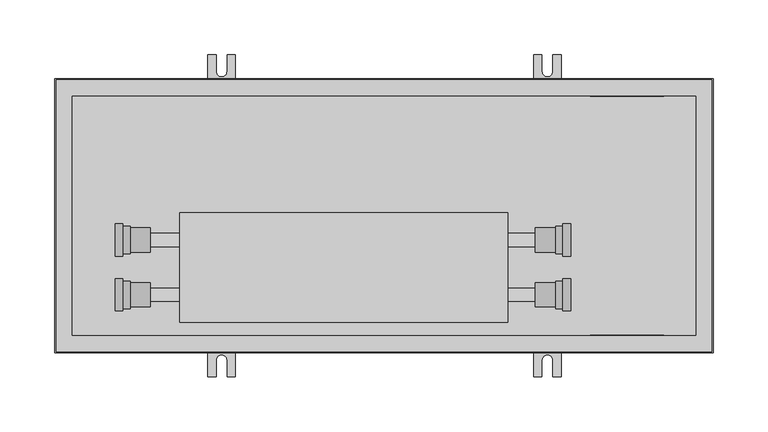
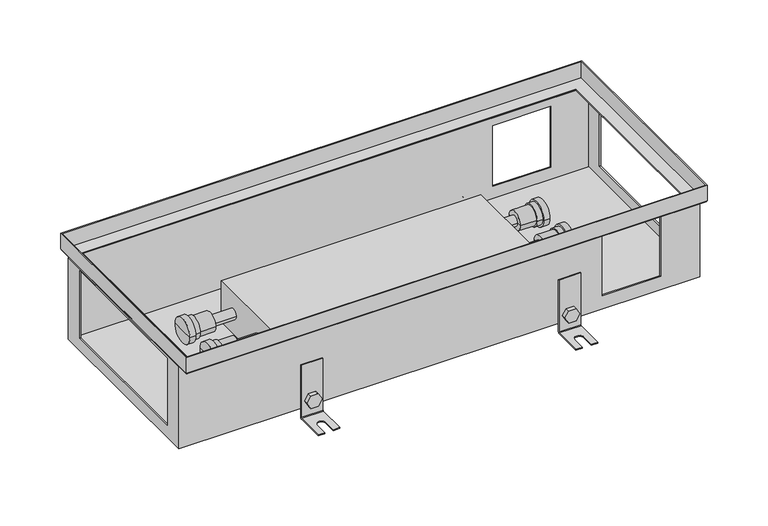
"""IFC4 building model written with IfcOpenShell, lengths in millimetres: proxy geometry, TECHNO_Конвектор встраиваемый_Usual_KVP-250_85-105-120 : KVP 250-120."""

from ifc_helpers import new_model, si_unit, point, frame, frame_2d, origin, place, context, project, spatial, polyline, circle_curve, ellipse_curve, trimmed, segment, composite_curve, outline, extrude, faceted_brep, source, transform, mapped, element, save
from ifc_brep_helpers import plane_surface, cylinder_surface, revolved_surface, advanced_brep


def mechanical_equipment_2afb26c2(model_context):
    return source(origin(), model_context, "Body", "SolidModel", [
        extrude(outline(composite_curve([segment(trimmed(circle_curve(frame_2d((-110.5, 449.0)), 7.5), [point((-110.5, 441.5))], [point((-110.5, 456.5))], False, "CARTESIAN"), True, "CONTINUOUS"), segment(trimmed(circle_curve(frame_2d((-110.5, 449.0)), 7.5), [point((-110.5, 456.5))], [point((-110.5, 441.5))], False, "CARTESIAN"), True, "CONTINUOUS")], self_intersect=False)), frame((0.0, 110.2, 0.0), z_axis=(0.0, 1.0, 0.0), x_axis=(0.0, 0.0, 1.0)), (0.0, 0.0, 1.0), 1.5),
        extrude(outline(polyline([(-110.5, 440.339746), (-118.0, 444.669873), (-118.0, 453.330127), (-110.5, 457.660254), (-103.0, 453.330127), (-103.0, 444.669873), (-110.5, 440.339746)])), frame((0.0, 112.9, 0.0), z_axis=(0.0, 1.0, 0.0), x_axis=(0.0, 0.0, 1.0)), (0.0, 0.0, 1.0), 5.1),
        advanced_brep(
        [(461.5, 112.9, -65.5), (461.5, 111.7, -65.5), (461.5, 111.7, -128.5), (461.5, 113.7, -130.5), (461.5, 146.7, -130.5), (461.5, 146.7, -129.3), (461.5, 113.7, -129.3), (461.5, 112.9, -128.5), (436.5, 112.9, -65.5), (436.5, 112.9, -128.5), (436.5, 113.7, -129.3), (436.5, 146.7, -129.3), (436.5, 146.7, -130.5), (436.5, 113.7, -130.5), (436.5, 111.7, -128.5), (436.5, 111.7, -65.5), (454.0, 146.7, -129.3), (454.0, 131.7, -129.3), (444.0, 131.7, -129.3), (444.0, 146.7, -129.3), (444.0, 146.7, -130.5), (454.0, 146.7, -130.5), (444.0, 131.7, -130.5), (454.0, 131.7, -130.5)],
        [
            (0, 1),
            (1, 2),
            (2, 3, circle_curve(frame((461.5, 113.7, -128.5), z_axis=(1.0, 0.0, 0.0), x_axis=(0.0, 1.0, 0.0)), 2.0)),
            (3, 4),
            (4, 5),
            (5, 6),
            (6, 7, circle_curve(frame((461.5, 113.7, -128.5), z_axis=(-1.0, 0.0, 0.0), x_axis=(0.0, 1.0, 0.0)), 0.8)),
            (7, 0),
            (8, 9),
            (9, 10, circle_curve(frame((436.5, 113.7, -128.5), z_axis=(1.0, 0.0, 0.0), x_axis=(0.0, 1.0, 0.0)), 0.8)),
            (10, 11),
            (11, 12),
            (12, 13),
            (13, 14, circle_curve(frame((436.5, 113.7, -128.5), z_axis=(-1.0, 0.0, 0.0), x_axis=(0.0, 1.0, 0.0)), 2.0)),
            (14, 15),
            (15, 8),
            (7, 9),
            (8, 0),
            (6, 10),
            (5, 16),
            (16, 17),
            (17, 18, circle_curve(frame((449.0, 131.7, -129.3), z_axis=(0.0, 0.0, -1.0), x_axis=(1.0, 0.0, 0.0)), 5.0)),
            (18, 19),
            (19, 11),
            (19, 20),
            (20, 12),
            (4, 21),
            (21, 16),
            (3, 13),
            (20, 22),
            (22, 23, circle_curve(frame((449.0, 131.7, -130.5), z_axis=(0.0, 0.0, 1.0), x_axis=(1.0, 0.0, 0.0)), 5.0)),
            (23, 21),
            (2, 14),
            (1, 15),
            (18, 22),
            (23, 17),
        ],
        [
            plane_surface(frame((461.5, 112.9, -65.5), z_axis=(1.0, 0.0, 0.0), x_axis=(0.0, 0.0, -1.0))),
            plane_surface(frame((436.5, 112.9, -65.5), z_axis=(-1.0, 0.0, 0.0), x_axis=(0.0, 0.0, 1.0))),
            plane_surface(frame((461.5, 112.9, -65.5), z_axis=(0.0, 1.0, 0.0), x_axis=(-1.0, 0.0, 0.0))),
            revolved_surface(polyline([(436.5, 114.5, -128.5), (461.5, 114.5, -128.5)]), (436.5, 113.7, -128.5), (-1.0, 0.0, 0.0)),
            plane_surface(frame((461.5, 113.7, -129.3), z_axis=(0.0, 0.0, 1.0), x_axis=(-1.0, 0.0, 0.0))),
            plane_surface(frame((461.5, 146.7, -129.3), z_axis=(0.0, 1.0, 0.0), x_axis=(-1.0, 0.0, 0.0))),
            plane_surface(frame((461.5, 146.7, -130.5), z_axis=(0.0, 0.0, -1.0), x_axis=(-1.0, 0.0, 0.0))),
            cylinder_surface(frame((436.5, 113.7, -128.5), z_axis=(1.0, 0.0, 0.0), x_axis=(0.0, 1.0, 0.0)), 2.0),
            plane_surface(frame((461.5, 111.7, -128.5), z_axis=(0.0, -1.0, 0.0), x_axis=(-1.0, 0.0, 0.0))),
            plane_surface(frame((461.5, 111.7, -65.5), z_axis=(0.0, 0.0, 1.0), x_axis=(-1.0, 0.0, 0.0))),
            plane_surface(frame((444.0, 131.7, -129.3), z_axis=(1.0, 0.0, 0.0), x_axis=(0.0, 0.0, -1.0))),
            plane_surface(frame((454.0, 146.7, -129.3), z_axis=(-1.0, 0.0, 0.0), x_axis=(0.0, 0.0, -1.0))),
            revolved_surface(polyline([(454.0, 131.7, -129.3), (454.0, 131.7, -130.5)]), (449.0, 131.7, -130.5), (0.0, 0.0, 1.0)),
        ],
        [
            (0, [[1, 2, 3, 4, 5, 6, 7, 8]]),
            (1, [[9, 10, 11, 12, 13, 14, 15, 16]]),
            (2, [[17, -9, 18, -8]]),
            (3, [[19, -10, -17, -7]]),
            (4, [[20, 21, 22, 23, 24, -11, -19, -6]]),
            (5, [[-24, 25, 26, -12]]),
            (5, [[27, 28, -20, -5]]),
            (6, [[29, -13, -26, 30, 31, 32, -27, -4]]),
            (7, [[33, -14, -29, -3]]),
            (8, [[34, -15, -33, -2]]),
            (9, [[-18, -16, -34, -1]]),
            (10, [[-30, -25, -23, 35]]),
            (11, [[-21, -28, -32, 36]]),
            (12, [[-22, -36, -31, -35]]),
        ],
    ),
        extrude(outline(composite_curve([segment(trimmed(circle_curve(frame_2d((-110.5, 449.0)), 7.5), [point((-110.5, 441.5))], [point((-110.5, 456.5))], False, "CARTESIAN"), True, "CONTINUOUS"), segment(trimmed(circle_curve(frame_2d((-110.5, 449.0)), 7.5), [point((-110.5, 456.5))], [point((-110.5, 441.5))], False, "CARTESIAN"), True, "CONTINUOUS")], self_intersect=False)), frame((0.0, -111.7, 0.0), z_axis=(0.0, 1.0, 0.0), x_axis=(0.0, 0.0, 1.0)), (0.0, 0.0, 1.0), 1.5),
        extrude(outline(polyline([(-110.5, 440.339746), (-118.0, 444.669873), (-118.0, 453.330127), (-110.5, 457.660254), (-103.0, 453.330127), (-103.0, 444.669873), (-110.5, 440.339746)])), frame((0.0, -118.0, 0.0), z_axis=(0.0, 1.0, 0.0), x_axis=(0.0, 0.0, 1.0)), (0.0, 0.0, 1.0), 5.1),
        advanced_brep(
        [(461.5, -112.9, -65.5), (461.5, -112.9, -128.5), (461.5, -113.7, -129.3), (461.5, -146.7, -129.3), (461.5, -146.7, -130.5), (461.5, -113.7, -130.5), (461.5, -111.7, -128.5), (461.5, -111.7, -65.5), (436.5, -112.9, -65.5), (436.5, -111.7, -65.5), (436.5, -111.7, -128.5), (436.5, -113.7, -130.5), (436.5, -146.7, -130.5), (436.5, -146.7, -129.3), (436.5, -113.7, -129.3), (436.5, -112.9, -128.5), (444.0, -146.7, -129.3), (444.0, -131.7, -129.3), (454.0, -131.7, -129.3), (454.0, -146.7, -129.3), (454.0, -146.7, -130.5), (444.0, -146.7, -130.5), (454.0, -131.7, -130.5), (444.0, -131.7, -130.5)],
        [
            (0, 1),
            (1, 2, circle_curve(frame((461.5, -113.7, -128.5), z_axis=(-1.0, 0.0, 0.0), x_axis=(0.0, -1.0, 0.0)), 0.8)),
            (2, 3),
            (3, 4),
            (4, 5),
            (5, 6, circle_curve(frame((461.5, -113.7, -128.5), z_axis=(1.0, 0.0, 0.0), x_axis=(0.0, -1.0, 0.0)), 2.0)),
            (6, 7),
            (7, 0),
            (8, 9),
            (9, 10),
            (10, 11, circle_curve(frame((436.5, -113.7, -128.5), z_axis=(-1.0, 0.0, 0.0), x_axis=(0.0, -1.0, 0.0)), 2.0)),
            (11, 12),
            (12, 13),
            (13, 14),
            (14, 15, circle_curve(frame((436.5, -113.7, -128.5), z_axis=(1.0, 0.0, 0.0), x_axis=(0.0, -1.0, 0.0)), 0.8)),
            (15, 8),
            (0, 8),
            (15, 1),
            (14, 2),
            (13, 16),
            (16, 17),
            (17, 18, circle_curve(frame((449.0, -131.7, -129.3), z_axis=(0.0, 0.0, -1.0), x_axis=(1.0, 0.0, 0.0)), 5.0)),
            (18, 19),
            (19, 3),
            (19, 20),
            (20, 4),
            (12, 21),
            (21, 16),
            (20, 22),
            (22, 23, circle_curve(frame((449.0, -131.7, -130.5), z_axis=(0.0, 0.0, 1.0), x_axis=(1.0, 0.0, 0.0)), 5.0)),
            (23, 21),
            (11, 5),
            (10, 6),
            (9, 7),
            (23, 17),
            (18, 22),
        ],
        [
            plane_surface(frame((461.5, -112.9, -65.5), z_axis=(1.0, 0.0, 0.0), x_axis=(0.0, 0.0, -1.0))),
            plane_surface(frame((436.5, -112.9, -65.5), z_axis=(-1.0, 0.0, 0.0), x_axis=(0.0, 0.0, 1.0))),
            plane_surface(frame((461.5, -112.9, -65.5), z_axis=(0.0, -1.0, 0.0), x_axis=(-1.0, 0.0, 0.0))),
            revolved_surface(polyline([(436.5, -114.5, -128.5), (461.5, -114.5, -128.5)]), (436.5, -113.7, -128.5), (-1.0, 0.0, 0.0)),
            plane_surface(frame((461.5, -113.7, -129.3), z_axis=(0.0, 0.0, 1.0), x_axis=(-1.0, 0.0, 0.0))),
            plane_surface(frame((461.5, -146.7, -129.3), z_axis=(0.0, -1.0, 0.0), x_axis=(-1.0, 0.0, 0.0))),
            plane_surface(frame((461.5, -146.7, -130.5), z_axis=(0.0, 0.0, -1.0), x_axis=(-1.0, 0.0, 0.0))),
            cylinder_surface(frame((436.5, -113.7, -128.5), z_axis=(1.0, 0.0, 0.0), x_axis=(0.0, -1.0, 0.0)), 2.0),
            plane_surface(frame((461.5, -111.7, -128.5), z_axis=(0.0, 1.0, 0.0), x_axis=(-1.0, 0.0, 0.0))),
            plane_surface(frame((461.5, -111.7, -65.5), z_axis=(0.0, 0.0, 1.0), x_axis=(-1.0, 0.0, 0.0))),
            plane_surface(frame((444.0, -131.7, -129.3), z_axis=(1.0, 0.0, 0.0), x_axis=(0.0, 0.0, -1.0))),
            plane_surface(frame((454.0, -146.7, -129.3), z_axis=(-1.0, 0.0, 0.0), x_axis=(0.0, 0.0, -1.0))),
            revolved_surface(polyline([(454.0, -131.7, -129.3), (454.0, -131.7, -130.5)]), (449.0, -131.7, -130.5), (0.0, 0.0, 1.0)),
        ],
        [
            (0, [[1, 2, 3, 4, 5, 6, 7, 8]]),
            (1, [[9, 10, 11, 12, 13, 14, 15, 16]]),
            (2, [[-1, 17, -16, 18]]),
            (3, [[-2, -18, -15, 19]]),
            (4, [[-3, -19, -14, 20, 21, 22, 23, 24]]),
            (5, [[-4, -24, 25, 26]]),
            (5, [[-13, 27, 28, -20]]),
            (6, [[-5, -26, 29, 30, 31, -27, -12, 32]]),
            (7, [[-6, -32, -11, 33]]),
            (8, [[-7, -33, -10, 34]]),
            (9, [[-8, -34, -9, -17]]),
            (10, [[35, -21, -28, -31]]),
            (11, [[36, -29, -25, -23]]),
            (12, [[-35, -30, -36, -22]]),
        ],
    ),
        extrude(outline(composite_curve([segment(trimmed(circle_curve(frame_2d((-110.5, 152.0)), 7.5), [point((-110.5, 144.5))], [point((-110.5, 159.5))], False, "CARTESIAN"), True, "CONTINUOUS"), segment(trimmed(circle_curve(frame_2d((-110.5, 152.0)), 7.5), [point((-110.5, 159.5))], [point((-110.5, 144.5))], False, "CARTESIAN"), True, "CONTINUOUS")], self_intersect=False)), frame((0.0, 110.2, 0.0), z_axis=(0.0, 1.0, 0.0), x_axis=(0.0, 0.0, 1.0)), (0.0, 0.0, 1.0), 1.5),
        extrude(outline(polyline([(-110.5, 143.339746), (-118.0, 147.669873), (-118.0, 156.330127), (-110.5, 160.660254), (-103.0, 156.330127), (-103.0, 147.669873), (-110.5, 143.339746)])), frame((0.0, 112.9, 0.0), z_axis=(0.0, 1.0, 0.0), x_axis=(0.0, 0.0, 1.0)), (0.0, 0.0, 1.0), 5.1),
        advanced_brep(
        [(164.5, 112.9, -65.5), (164.5, 111.7, -65.5), (164.5, 111.7, -128.5), (164.5, 113.7, -130.5), (164.5, 146.7, -130.5), (164.5, 146.7, -129.3), (164.5, 113.7, -129.3), (164.5, 112.9, -128.5), (139.5, 112.9, -65.5), (139.5, 112.9, -128.5), (139.5, 113.7, -129.3), (139.5, 146.7, -129.3), (139.5, 146.7, -130.5), (139.5, 113.7, -130.5), (139.5, 111.7, -128.5), (139.5, 111.7, -65.5), (157.0, 146.7, -129.3), (157.0, 131.7, -129.3), (147.0, 131.7, -129.3), (147.0, 146.7, -129.3), (147.0, 146.7, -130.5), (157.0, 146.7, -130.5), (147.0, 131.7, -130.5), (157.0, 131.7, -130.5)],
        [
            (0, 1),
            (1, 2),
            (2, 3, circle_curve(frame((164.5, 113.7, -128.5), z_axis=(1.0, 0.0, 0.0), x_axis=(0.0, 1.0, 0.0)), 2.0)),
            (3, 4),
            (4, 5),
            (5, 6),
            (6, 7, circle_curve(frame((164.5, 113.7, -128.5), z_axis=(-1.0, 0.0, 0.0), x_axis=(0.0, 1.0, 0.0)), 0.8)),
            (7, 0),
            (8, 9),
            (9, 10, circle_curve(frame((139.5, 113.7, -128.5), z_axis=(1.0, 0.0, 0.0), x_axis=(0.0, 1.0, 0.0)), 0.8)),
            (10, 11),
            (11, 12),
            (12, 13),
            (13, 14, circle_curve(frame((139.5, 113.7, -128.5), z_axis=(-1.0, 0.0, 0.0), x_axis=(0.0, 1.0, 0.0)), 2.0)),
            (14, 15),
            (15, 8),
            (7, 9),
            (8, 0),
            (6, 10),
            (5, 16),
            (16, 17),
            (17, 18, circle_curve(frame((152.0, 131.7, -129.3), z_axis=(0.0, 0.0, -1.0), x_axis=(1.0, 0.0, 0.0)), 5.0)),
            (18, 19),
            (19, 11),
            (19, 20),
            (20, 12),
            (4, 21),
            (21, 16),
            (3, 13),
            (20, 22),
            (22, 23, circle_curve(frame((152.0, 131.7, -130.5), z_axis=(0.0, 0.0, 1.0), x_axis=(1.0, 0.0, 0.0)), 5.0)),
            (23, 21),
            (2, 14),
            (1, 15),
            (18, 22),
            (23, 17),
        ],
        [
            plane_surface(frame((164.5, 112.9, -65.5), z_axis=(1.0, 0.0, 0.0), x_axis=(0.0, 0.0, -1.0))),
            plane_surface(frame((139.5, 112.9, -65.5), z_axis=(-1.0, 0.0, 0.0), x_axis=(0.0, 0.0, 1.0))),
            plane_surface(frame((164.5, 112.9, -65.5), z_axis=(0.0, 1.0, 0.0), x_axis=(-1.0, 0.0, 0.0))),
            revolved_surface(polyline([(139.5, 114.5, -128.5), (164.5, 114.5, -128.5)]), (139.5, 113.7, -128.5), (-1.0, 0.0, 0.0)),
            plane_surface(frame((164.5, 113.7, -129.3), z_axis=(0.0, 0.0, 1.0), x_axis=(-1.0, 0.0, 0.0))),
            plane_surface(frame((164.5, 146.7, -129.3), z_axis=(0.0, 1.0, 0.0), x_axis=(-1.0, 0.0, 0.0))),
            plane_surface(frame((164.5, 146.7, -130.5), z_axis=(0.0, 0.0, -1.0), x_axis=(-1.0, 0.0, 0.0))),
            cylinder_surface(frame((139.5, 113.7, -128.5), z_axis=(1.0, 0.0, 0.0), x_axis=(0.0, 1.0, 0.0)), 2.0),
            plane_surface(frame((164.5, 111.7, -128.5), z_axis=(0.0, -1.0, 0.0), x_axis=(-1.0, 0.0, 0.0))),
            plane_surface(frame((164.5, 111.7, -65.5), z_axis=(0.0, 0.0, 1.0), x_axis=(-1.0, 0.0, 0.0))),
            plane_surface(frame((147.0, 131.7, -129.3), z_axis=(1.0, 0.0, 0.0), x_axis=(0.0, 0.0, -1.0))),
            plane_surface(frame((157.0, 146.7, -129.3), z_axis=(-1.0, 0.0, 0.0), x_axis=(0.0, 0.0, -1.0))),
            revolved_surface(polyline([(157.0, 131.7, -129.3), (157.0, 131.7, -130.5)]), (152.0, 131.7, -130.5), (0.0, 0.0, 1.0)),
        ],
        [
            (0, [[1, 2, 3, 4, 5, 6, 7, 8]]),
            (1, [[9, 10, 11, 12, 13, 14, 15, 16]]),
            (2, [[17, -9, 18, -8]]),
            (3, [[19, -10, -17, -7]]),
            (4, [[20, 21, 22, 23, 24, -11, -19, -6]]),
            (5, [[-24, 25, 26, -12]]),
            (5, [[27, 28, -20, -5]]),
            (6, [[29, -13, -26, 30, 31, 32, -27, -4]]),
            (7, [[33, -14, -29, -3]]),
            (8, [[34, -15, -33, -2]]),
            (9, [[-18, -16, -34, -1]]),
            (10, [[-30, -25, -23, 35]]),
            (11, [[-21, -28, -32, 36]]),
            (12, [[-22, -36, -31, -35]]),
        ],
    ),
        extrude(outline(composite_curve([segment(trimmed(circle_curve(frame_2d((-110.5, 152.0)), 7.5), [point((-110.5, 144.5))], [point((-110.5, 159.5))], False, "CARTESIAN"), True, "CONTINUOUS"), segment(trimmed(circle_curve(frame_2d((-110.5, 152.0)), 7.5), [point((-110.5, 159.5))], [point((-110.5, 144.5))], False, "CARTESIAN"), True, "CONTINUOUS")], self_intersect=False)), frame((0.0, -111.7, 0.0), z_axis=(0.0, 1.0, 0.0), x_axis=(0.0, 0.0, 1.0)), (0.0, 0.0, 1.0), 1.5),
        extrude(outline(polyline([(-110.5, 143.339746), (-118.0, 147.669873), (-118.0, 156.330127), (-110.5, 160.660254), (-103.0, 156.330127), (-103.0, 147.669873), (-110.5, 143.339746)])), frame((0.0, -118.0, 0.0), z_axis=(0.0, 1.0, 0.0), x_axis=(0.0, 0.0, 1.0)), (0.0, 0.0, 1.0), 5.1),
        advanced_brep(
        [(164.5, -112.9, -65.5), (164.5, -112.9, -128.5), (164.5, -113.7, -129.3), (164.5, -146.7, -129.3), (164.5, -146.7, -130.5), (164.5, -113.7, -130.5), (164.5, -111.7, -128.5), (164.5, -111.7, -65.5), (139.5, -112.9, -65.5), (139.5, -111.7, -65.5), (139.5, -111.7, -128.5), (139.5, -113.7, -130.5), (139.5, -146.7, -130.5), (139.5, -146.7, -129.3), (139.5, -113.7, -129.3), (139.5, -112.9, -128.5), (147.0, -146.7, -129.3), (147.0, -131.7, -129.3), (157.0, -131.7, -129.3), (157.0, -146.7, -129.3), (157.0, -146.7, -130.5), (147.0, -146.7, -130.5), (157.0, -131.7, -130.5), (147.0, -131.7, -130.5)],
        [
            (0, 1),
            (1, 2, circle_curve(frame((164.5, -113.7, -128.5), z_axis=(-1.0, 0.0, 0.0), x_axis=(0.0, -1.0, 0.0)), 0.8)),
            (2, 3),
            (3, 4),
            (4, 5),
            (5, 6, circle_curve(frame((164.5, -113.7, -128.5), z_axis=(1.0, 0.0, 0.0), x_axis=(0.0, -1.0, 0.0)), 2.0)),
            (6, 7),
            (7, 0),
            (8, 9),
            (9, 10),
            (10, 11, circle_curve(frame((139.5, -113.7, -128.5), z_axis=(-1.0, 0.0, 0.0), x_axis=(0.0, -1.0, 0.0)), 2.0)),
            (11, 12),
            (12, 13),
            (13, 14),
            (14, 15, circle_curve(frame((139.5, -113.7, -128.5), z_axis=(1.0, 0.0, 0.0), x_axis=(0.0, -1.0, 0.0)), 0.8)),
            (15, 8),
            (0, 8),
            (15, 1),
            (14, 2),
            (13, 16),
            (16, 17),
            (17, 18, circle_curve(frame((152.0, -131.7, -129.3), z_axis=(0.0, 0.0, -1.0), x_axis=(1.0, 0.0, 0.0)), 5.0)),
            (18, 19),
            (19, 3),
            (19, 20),
            (20, 4),
            (12, 21),
            (21, 16),
            (20, 22),
            (22, 23, circle_curve(frame((152.0, -131.7, -130.5), z_axis=(0.0, 0.0, 1.0), x_axis=(1.0, 0.0, 0.0)), 5.0)),
            (23, 21),
            (11, 5),
            (10, 6),
            (9, 7),
            (23, 17),
            (18, 22),
        ],
        [
            plane_surface(frame((164.5, -112.9, -65.5), z_axis=(1.0, 0.0, 0.0), x_axis=(0.0, 0.0, -1.0))),
            plane_surface(frame((139.5, -112.9, -65.5), z_axis=(-1.0, 0.0, 0.0), x_axis=(0.0, 0.0, 1.0))),
            plane_surface(frame((164.5, -112.9, -65.5), z_axis=(0.0, -1.0, 0.0), x_axis=(-1.0, 0.0, 0.0))),
            revolved_surface(polyline([(139.5, -114.5, -128.5), (164.5, -114.5, -128.5)]), (139.5, -113.7, -128.5), (-1.0, 0.0, 0.0)),
            plane_surface(frame((164.5, -113.7, -129.3), z_axis=(0.0, 0.0, 1.0), x_axis=(-1.0, 0.0, 0.0))),
            plane_surface(frame((164.5, -146.7, -129.3), z_axis=(0.0, -1.0, 0.0), x_axis=(-1.0, 0.0, 0.0))),
            plane_surface(frame((164.5, -146.7, -130.5), z_axis=(0.0, 0.0, -1.0), x_axis=(-1.0, 0.0, 0.0))),
            cylinder_surface(frame((139.5, -113.7, -128.5), z_axis=(1.0, 0.0, 0.0), x_axis=(0.0, -1.0, 0.0)), 2.0),
            plane_surface(frame((164.5, -111.7, -128.5), z_axis=(0.0, 1.0, 0.0), x_axis=(-1.0, 0.0, 0.0))),
            plane_surface(frame((164.5, -111.7, -65.5), z_axis=(0.0, 0.0, 1.0), x_axis=(-1.0, 0.0, 0.0))),
            plane_surface(frame((147.0, -131.7, -129.3), z_axis=(1.0, 0.0, 0.0), x_axis=(0.0, 0.0, -1.0))),
            plane_surface(frame((157.0, -146.7, -129.3), z_axis=(-1.0, 0.0, 0.0), x_axis=(0.0, 0.0, -1.0))),
            revolved_surface(polyline([(157.0, -131.7, -129.3), (157.0, -131.7, -130.5)]), (152.0, -131.7, -130.5), (0.0, 0.0, 1.0)),
        ],
        [
            (0, [[1, 2, 3, 4, 5, 6, 7, 8]]),
            (1, [[9, 10, 11, 12, 13, 14, 15, 16]]),
            (2, [[-1, 17, -16, 18]]),
            (3, [[-2, -18, -15, 19]]),
            (4, [[-3, -19, -14, 20, 21, 22, 23, 24]]),
            (5, [[-4, -24, 25, 26]]),
            (5, [[-13, 27, 28, -20]]),
            (6, [[-5, -26, 29, 30, 31, -27, -12, 32]]),
            (7, [[-6, -32, -11, 33]]),
            (8, [[-7, -33, -10, 34]]),
            (9, [[-8, -34, -9, -17]]),
            (10, [[35, -21, -28, -31]]),
            (11, [[36, -29, -25, -23]]),
            (12, [[-35, -30, -36, -22]]),
        ],
    ),
        advanced_brep(
        [(87.0, -33.0, -48.5), (87.0, -11.0, -48.5), (87.0, -22.0, -48.5), (68.5, -33.0, -48.5), (68.5, -11.0, -48.5), (68.5, -34.5, -48.5), (68.5, -9.5, -48.5), (62.0, -34.5, -48.5), (62.0, -9.5, -48.5), (62.0, -36.7, -48.5), (62.0, -7.3, -48.5), (55.0, -36.7, -48.5), (55.0, -7.3, -48.5), (55.0, -22.0, -48.5)],
        [
            (0, 1, circle_curve(frame((87.0, -22.0, -48.5), z_axis=(1.0, 0.0, 0.0), x_axis=(0.0, 1.0, 0.0)), 11.0)),
            (1, 2),
            (2, 0),
            (1, 0, circle_curve(frame((87.0, -22.0, -48.5), z_axis=(1.0, 0.0, 0.0), x_axis=(0.0, 1.0, 0.0)), 11.0)),
            (3, 4, circle_curve(frame((68.5, -22.0, -48.5), z_axis=(1.0, 0.0, 0.0), x_axis=(0.0, 1.0, 0.0)), 11.0)),
            (4, 1),
            (0, 3),
            (4, 3, circle_curve(frame((68.5, -22.0, -48.5), z_axis=(1.0, 0.0, 0.0), x_axis=(0.0, 1.0, 0.0)), 11.0)),
            (5, 6, circle_curve(frame((68.5, -22.0, -48.5), z_axis=(1.0, 0.0, 0.0), x_axis=(0.0, 1.0, 0.0)), 12.5)),
            (6, 4),
            (3, 5),
            (6, 5, circle_curve(frame((68.5, -22.0, -48.5), z_axis=(1.0, 0.0, 0.0), x_axis=(0.0, 1.0, 0.0)), 12.5)),
            (7, 8, circle_curve(frame((62.0, -22.0, -48.5), z_axis=(1.0, 0.0, 0.0), x_axis=(0.0, 1.0, 0.0)), 12.5)),
            (8, 6),
            (5, 7),
            (8, 7, circle_curve(frame((62.0, -22.0, -48.5), z_axis=(1.0, 0.0, 0.0), x_axis=(0.0, 1.0, 0.0)), 12.5)),
            (9, 10, circle_curve(frame((62.0, -22.0, -48.5), z_axis=(1.0, 0.0, 0.0), x_axis=(0.0, 1.0, 0.0)), 14.7)),
            (10, 8),
            (7, 9),
            (10, 9, circle_curve(frame((62.0, -22.0, -48.5), z_axis=(1.0, 0.0, 0.0), x_axis=(0.0, 1.0, 0.0)), 14.7)),
            (11, 12, circle_curve(frame((55.0, -22.0, -48.5), z_axis=(1.0, 0.0, 0.0), x_axis=(0.0, 1.0, 0.0)), 14.7)),
            (12, 10),
            (9, 11),
            (12, 11, circle_curve(frame((55.0, -22.0, -48.5), z_axis=(1.0, 0.0, 0.0), x_axis=(0.0, 1.0, 0.0)), 14.7)),
            (13, 12),
            (11, 13),
        ],
        [
            plane_surface(frame((87.0, -22.0, -48.5), z_axis=(1.0, 0.0, 0.0), x_axis=(0.0, 1.0, 0.0))),
            cylinder_surface(frame((45.0, -22.0, -48.5), z_axis=(-1.0, 0.0, 0.0), x_axis=(0.0, 1.0, 0.0)), 11.0),
            plane_surface(frame((68.5, -22.0, -48.5), z_axis=(1.0, 0.0, 0.0), x_axis=(0.0, 1.0, 0.0))),
            cylinder_surface(frame((45.0, -22.0, -48.5), z_axis=(-1.0, 0.0, 0.0), x_axis=(0.0, 1.0, 0.0)), 12.5),
            plane_surface(frame((62.0, -22.0, -48.5), z_axis=(1.0, 0.0, 0.0), x_axis=(0.0, 1.0, 0.0))),
            cylinder_surface(frame((45.0, -22.0, -48.5), z_axis=(-1.0, 0.0, 0.0), x_axis=(0.0, 1.0, 0.0)), 14.7),
            plane_surface(frame((55.0, -22.0, -48.5), z_axis=(-1.0, 0.0, 0.0), x_axis=(0.0, 1.0, 0.0))),
        ],
        [
            (0, [[1, 2, 3]]),
            (0, [[4, -3, -2]]),
            (1, [[5, 6, -1, 7]]),
            (1, [[8, -7, -4, -6]]),
            (2, [[9, 10, -5, 11]]),
            (2, [[12, -11, -8, -10]]),
            (3, [[13, 14, -9, 15]]),
            (3, [[16, -15, -12, -14]]),
            (4, [[17, 18, -13, 19]]),
            (4, [[20, -19, -16, -18]]),
            (5, [[21, 22, -17, 23]]),
            (5, [[24, -23, -20, -22]]),
            (6, [[25, -21, 26]]),
            (6, [[-26, -24, -25]]),
        ],
    ),
        advanced_brep(
        [(87.0, -83.0, -48.5), (87.0, -61.0, -48.5), (87.0, -72.0, -48.5), (68.5, -83.0, -48.5), (68.5, -61.0, -48.5), (68.5, -84.5, -48.5), (68.5, -59.5, -48.5), (62.0, -84.5, -48.5), (62.0, -59.5, -48.5), (62.0, -86.7, -48.5), (62.0, -57.3, -48.5), (55.0, -86.7, -48.5), (55.0, -57.3, -48.5), (55.0, -72.0, -48.5)],
        [
            (0, 1, circle_curve(frame((87.0, -72.0, -48.5), z_axis=(1.0, 0.0, 0.0), x_axis=(0.0, 1.0, 0.0)), 11.0)),
            (1, 2),
            (2, 0),
            (1, 0, circle_curve(frame((87.0, -72.0, -48.5), z_axis=(1.0, 0.0, 0.0), x_axis=(0.0, 1.0, 0.0)), 11.0)),
            (3, 4, circle_curve(frame((68.5, -72.0, -48.5), z_axis=(1.0, 0.0, 0.0), x_axis=(0.0, 1.0, 0.0)), 11.0)),
            (4, 1),
            (0, 3),
            (4, 3, circle_curve(frame((68.5, -72.0, -48.5), z_axis=(1.0, 0.0, 0.0), x_axis=(0.0, 1.0, 0.0)), 11.0)),
            (5, 6, circle_curve(frame((68.5, -72.0, -48.5), z_axis=(1.0, 0.0, 0.0), x_axis=(0.0, 1.0, 0.0)), 12.5)),
            (6, 4),
            (3, 5),
            (6, 5, circle_curve(frame((68.5, -72.0, -48.5), z_axis=(1.0, 0.0, 0.0), x_axis=(0.0, 1.0, 0.0)), 12.5)),
            (7, 8, circle_curve(frame((62.0, -72.0, -48.5), z_axis=(1.0, 0.0, 0.0), x_axis=(0.0, 1.0, 0.0)), 12.5)),
            (8, 6),
            (5, 7),
            (8, 7, circle_curve(frame((62.0, -72.0, -48.5), z_axis=(1.0, 0.0, 0.0), x_axis=(0.0, 1.0, 0.0)), 12.5)),
            (9, 10, circle_curve(frame((62.0, -72.0, -48.5), z_axis=(1.0, 0.0, 0.0), x_axis=(0.0, 1.0, 0.0)), 14.7)),
            (10, 8),
            (7, 9),
            (10, 9, circle_curve(frame((62.0, -72.0, -48.5), z_axis=(1.0, 0.0, 0.0), x_axis=(0.0, 1.0, 0.0)), 14.7)),
            (11, 12, circle_curve(frame((55.0, -72.0, -48.5), z_axis=(1.0, 0.0, 0.0), x_axis=(0.0, 1.0, 0.0)), 14.7)),
            (12, 10),
            (9, 11),
            (12, 11, circle_curve(frame((55.0, -72.0, -48.5), z_axis=(1.0, 0.0, 0.0), x_axis=(0.0, 1.0, 0.0)), 14.7)),
            (13, 12),
            (11, 13),
        ],
        [
            plane_surface(frame((87.0, -72.0, -48.5), z_axis=(1.0, 0.0, 0.0), x_axis=(0.0, 1.0, 0.0))),
            cylinder_surface(frame((45.0, -72.0, -48.5), z_axis=(-1.0, 0.0, 0.0), x_axis=(0.0, 1.0, 0.0)), 11.0),
            plane_surface(frame((68.5, -72.0, -48.5), z_axis=(1.0, 0.0, 0.0), x_axis=(0.0, 1.0, 0.0))),
            cylinder_surface(frame((45.0, -72.0, -48.5), z_axis=(-1.0, 0.0, 0.0), x_axis=(0.0, 1.0, 0.0)), 12.5),
            plane_surface(frame((62.0, -72.0, -48.5), z_axis=(1.0, 0.0, 0.0), x_axis=(0.0, 1.0, 0.0))),
            cylinder_surface(frame((45.0, -72.0, -48.5), z_axis=(-1.0, 0.0, 0.0), x_axis=(0.0, 1.0, 0.0)), 14.7),
            plane_surface(frame((55.0, -72.0, -48.5), z_axis=(-1.0, 0.0, 0.0), x_axis=(0.0, 1.0, 0.0))),
        ],
        [
            (0, [[1, 2, 3]]),
            (0, [[4, -3, -2]]),
            (1, [[5, 6, -1, 7]]),
            (1, [[8, -7, -4, -6]]),
            (2, [[9, 10, -5, 11]]),
            (2, [[12, -11, -8, -10]]),
            (3, [[13, 14, -9, 15]]),
            (3, [[16, -15, -12, -14]]),
            (4, [[17, 18, -13, 19]]),
            (4, [[20, -19, -16, -18]]),
            (5, [[21, 22, -17, 23]]),
            (5, [[24, -23, -20, -22]]),
            (6, [[25, -21, 26]]),
            (6, [[-26, -24, -25]]),
        ],
    ),
        extrude(outline(polyline([(413.0, 3.0), (413.0, -97.0), (114.0, -97.0), (114.0, 3.0), (413.0, 3.0)])), frame((0.0, 0.0, -73.5), z_axis=(0.0, 0.0, 1.0), x_axis=(1.0, 0.0, 0.0)), (0.0, 0.0, 1.0), 50.0),
        advanced_brep(
        [(438.0, -22.0, -48.5), (438.0, -11.0, -48.5), (438.0, -33.0, -48.5), (456.5, -11.0, -48.5), (456.5, -33.0, -48.5), (456.5, -9.5, -48.5), (456.5, -34.5, -48.5), (463.0, -9.5, -48.5), (463.0, -34.5, -48.5), (463.0, -7.3, -48.5), (463.0, -36.7, -48.5), (470.0, -7.3, -48.5), (470.0, -36.7, -48.5), (470.0, -22.0, -48.5)],
        [
            (0, 1),
            (1, 2, circle_curve(frame((438.0, -22.0, -48.5), z_axis=(-1.0, 0.0, 0.0), x_axis=(0.0, 1.0, 0.0)), 11.0)),
            (2, 0),
            (2, 1, circle_curve(frame((438.0, -22.0, -48.5), z_axis=(-1.0, 0.0, 0.0), x_axis=(0.0, 1.0, 0.0)), 11.0)),
            (1, 3),
            (3, 4, circle_curve(frame((456.5, -22.0, -48.5), z_axis=(-1.0, 0.0, 0.0), x_axis=(0.0, 1.0, 0.0)), 11.0)),
            (4, 2),
            (4, 3, circle_curve(frame((456.5, -22.0, -48.5), z_axis=(-1.0, 0.0, 0.0), x_axis=(0.0, 1.0, 0.0)), 11.0)),
            (3, 5),
            (5, 6, circle_curve(frame((456.5, -22.0, -48.5), z_axis=(-1.0, 0.0, 0.0), x_axis=(0.0, 1.0, 0.0)), 12.5)),
            (6, 4),
            (6, 5, circle_curve(frame((456.5, -22.0, -48.5), z_axis=(-1.0, 0.0, 0.0), x_axis=(0.0, 1.0, 0.0)), 12.5)),
            (5, 7),
            (7, 8, circle_curve(frame((463.0, -22.0, -48.5), z_axis=(-1.0, 0.0, 0.0), x_axis=(0.0, 1.0, 0.0)), 12.5)),
            (8, 6),
            (8, 7, circle_curve(frame((463.0, -22.0, -48.5), z_axis=(-1.0, 0.0, 0.0), x_axis=(0.0, 1.0, 0.0)), 12.5)),
            (7, 9),
            (9, 10, circle_curve(frame((463.0, -22.0, -48.5), z_axis=(-1.0, 0.0, 0.0), x_axis=(0.0, 1.0, 0.0)), 14.7)),
            (10, 8),
            (10, 9, circle_curve(frame((463.0, -22.0, -48.5), z_axis=(-1.0, 0.0, 0.0), x_axis=(0.0, 1.0, 0.0)), 14.7)),
            (9, 11),
            (11, 12, circle_curve(frame((470.0, -22.0, -48.5), z_axis=(-1.0, 0.0, 0.0), x_axis=(0.0, 1.0, 0.0)), 14.7)),
            (12, 10),
            (12, 11, circle_curve(frame((470.0, -22.0, -48.5), z_axis=(-1.0, 0.0, 0.0), x_axis=(0.0, 1.0, 0.0)), 14.7)),
            (11, 13),
            (13, 12),
        ],
        [
            plane_surface(frame((438.0, -22.0, -48.5), z_axis=(-1.0, 0.0, 0.0), x_axis=(0.0, 1.0, 0.0))),
            cylinder_surface(frame((470.0, -22.0, -48.5), z_axis=(-1.0, 0.0, 0.0), x_axis=(0.0, 1.0, 0.0)), 11.0),
            plane_surface(frame((456.5, -22.0, -48.5), z_axis=(-1.0, 0.0, 0.0), x_axis=(0.0, 1.0, 0.0))),
            cylinder_surface(frame((470.0, -22.0, -48.5), z_axis=(-1.0, 0.0, 0.0), x_axis=(0.0, 1.0, 0.0)), 12.5),
            plane_surface(frame((463.0, -22.0, -48.5), z_axis=(-1.0, 0.0, 0.0), x_axis=(0.0, 1.0, 0.0))),
            cylinder_surface(frame((470.0, -22.0, -48.5), z_axis=(-1.0, 0.0, 0.0), x_axis=(0.0, 1.0, 0.0)), 14.7),
            plane_surface(frame((470.0, -22.0, -48.5), z_axis=(1.0, 0.0, 0.0), x_axis=(0.0, 1.0, 0.0))),
        ],
        [
            (0, [[1, 2, 3]]),
            (0, [[-3, 4, -1]]),
            (1, [[-2, 5, 6, 7]]),
            (1, [[-4, -7, 8, -5]]),
            (2, [[-6, 9, 10, 11]]),
            (2, [[-8, -11, 12, -9]]),
            (3, [[-10, 13, 14, 15]]),
            (3, [[-12, -15, 16, -13]]),
            (4, [[-14, 17, 18, 19]]),
            (4, [[-16, -19, 20, -17]]),
            (5, [[-18, 21, 22, 23]]),
            (5, [[-20, -23, 24, -21]]),
            (6, [[-22, 25, 26]]),
            (6, [[-24, -26, -25]]),
        ],
    ),
        advanced_brep(
        [(438.0, -72.0, -48.5), (438.0, -61.0, -48.5), (438.0, -83.0, -48.5), (456.5, -61.0, -48.5), (456.5, -83.0, -48.5), (456.5, -59.5, -48.5), (456.5, -84.5, -48.5), (463.0, -59.5, -48.5), (463.0, -84.5, -48.5), (463.0, -57.3, -48.5), (463.0, -86.7, -48.5), (470.0, -57.3, -48.5), (470.0, -86.7, -48.5), (470.0, -72.0, -48.5)],
        [
            (0, 1),
            (1, 2, circle_curve(frame((438.0, -72.0, -48.5), z_axis=(-1.0, 0.0, 0.0), x_axis=(0.0, 1.0, 0.0)), 11.0)),
            (2, 0),
            (2, 1, circle_curve(frame((438.0, -72.0, -48.5), z_axis=(-1.0, 0.0, 0.0), x_axis=(0.0, 1.0, 0.0)), 11.0)),
            (1, 3),
            (3, 4, circle_curve(frame((456.5, -72.0, -48.5), z_axis=(-1.0, 0.0, 0.0), x_axis=(0.0, 1.0, 0.0)), 11.0)),
            (4, 2),
            (4, 3, circle_curve(frame((456.5, -72.0, -48.5), z_axis=(-1.0, 0.0, 0.0), x_axis=(0.0, 1.0, 0.0)), 11.0)),
            (3, 5),
            (5, 6, circle_curve(frame((456.5, -72.0, -48.5), z_axis=(-1.0, 0.0, 0.0), x_axis=(0.0, 1.0, 0.0)), 12.5)),
            (6, 4),
            (6, 5, circle_curve(frame((456.5, -72.0, -48.5), z_axis=(-1.0, 0.0, 0.0), x_axis=(0.0, 1.0, 0.0)), 12.5)),
            (5, 7),
            (7, 8, circle_curve(frame((463.0, -72.0, -48.5), z_axis=(-1.0, 0.0, 0.0), x_axis=(0.0, 1.0, 0.0)), 12.5)),
            (8, 6),
            (8, 7, circle_curve(frame((463.0, -72.0, -48.5), z_axis=(-1.0, 0.0, 0.0), x_axis=(0.0, 1.0, 0.0)), 12.5)),
            (7, 9),
            (9, 10, circle_curve(frame((463.0, -72.0, -48.5), z_axis=(-1.0, 0.0, 0.0), x_axis=(0.0, 1.0, 0.0)), 14.7)),
            (10, 8),
            (10, 9, circle_curve(frame((463.0, -72.0, -48.5), z_axis=(-1.0, 0.0, 0.0), x_axis=(0.0, 1.0, 0.0)), 14.7)),
            (9, 11),
            (11, 12, circle_curve(frame((470.0, -72.0, -48.5), z_axis=(-1.0, 0.0, 0.0), x_axis=(0.0, 1.0, 0.0)), 14.7)),
            (12, 10),
            (12, 11, circle_curve(frame((470.0, -72.0, -48.5), z_axis=(-1.0, 0.0, 0.0), x_axis=(0.0, 1.0, 0.0)), 14.7)),
            (11, 13),
            (13, 12),
        ],
        [
            plane_surface(frame((438.0, -72.0, -48.5), z_axis=(-1.0, 0.0, 0.0), x_axis=(0.0, 1.0, 0.0))),
            cylinder_surface(frame((470.0, -72.0, -48.5), z_axis=(-1.0, 0.0, 0.0), x_axis=(0.0, 1.0, 0.0)), 11.0),
            plane_surface(frame((456.5, -72.0, -48.5), z_axis=(-1.0, 0.0, 0.0), x_axis=(0.0, 1.0, 0.0))),
            cylinder_surface(frame((470.0, -72.0, -48.5), z_axis=(-1.0, 0.0, 0.0), x_axis=(0.0, 1.0, 0.0)), 12.5),
            plane_surface(frame((463.0, -72.0, -48.5), z_axis=(-1.0, 0.0, 0.0), x_axis=(0.0, 1.0, 0.0))),
            cylinder_surface(frame((470.0, -72.0, -48.5), z_axis=(-1.0, 0.0, 0.0), x_axis=(0.0, 1.0, 0.0)), 14.7),
            plane_surface(frame((470.0, -72.0, -48.5), z_axis=(1.0, 0.0, 0.0), x_axis=(0.0, 1.0, 0.0))),
        ],
        [
            (0, [[1, 2, 3]]),
            (0, [[-3, 4, -1]]),
            (1, [[-2, 5, 6, 7]]),
            (1, [[-4, -7, 8, -5]]),
            (2, [[-6, 9, 10, 11]]),
            (2, [[-8, -11, 12, -9]]),
            (3, [[-10, 13, 14, 15]]),
            (3, [[-12, -15, 16, -13]]),
            (4, [[-14, 17, 18, 19]]),
            (4, [[-16, -19, 20, -17]]),
            (5, [[-18, 21, 22, 23]]),
            (5, [[-20, -23, 24, -21]]),
            (6, [[-22, 25, 26]]),
            (6, [[-24, -26, -25]]),
        ],
    ),
        extrude(outline(composite_curve([segment(trimmed(circle_curve(frame_2d((-22.0, -48.5)), 6.0), [point((-28.0, -48.5))], [point((-16.0, -48.5))], False, "CARTESIAN"), True, "CONTINUOUS"), segment(trimmed(circle_curve(frame_2d((-22.0, -48.5)), 6.0), [point((-16.0, -48.5))], [point((-28.0, -48.5))], False, "CARTESIAN"), True, "CONTINUOUS")], self_intersect=False)), frame((87.0, 0.0, 0.0), z_axis=(1.0, 0.0, 0.0), x_axis=(0.0, 1.0, 0.0)), (0.0, 0.0, 1.0), 351.0),
        extrude(outline(composite_curve([segment(trimmed(circle_curve(frame_2d((-72.0, -48.5)), 6.0), [point((-78.0, -48.5))], [point((-66.0, -48.5))], False, "CARTESIAN"), True, "CONTINUOUS"), segment(trimmed(circle_curve(frame_2d((-72.0, -48.5)), 6.0), [point((-66.0, -48.5))], [point((-78.0, -48.5))], False, "CARTESIAN"), True, "CONTINUOUS")], self_intersect=False)), frame((87.0, 0.0, 0.0), z_axis=(1.0, 0.0, 0.0), x_axis=(0.0, 1.0, 0.0)), (0.0, 0.0, 1.0), 351.0),
        faceted_brep([(598.8, -109.0, -118.8), (598.8, 109.0, -118.8), (1.2, 109.0, -118.8), (1.2, -109.0, -118.8), (0.0, -110.2, -120.0), (0.0, 110.2, -120.0), (600.0, 110.2, -120.0), (600.0, -110.2, -120.0), (600.0, -110.2, -20.5), (0.0, -110.2, -20.5), (488.0, -110.2, -30.0), (555.0, -110.2, -30.0), (555.0, -110.2, -104.0), (488.0, -110.2, -104.0), (600.0, 110.2, -20.5), (600.0, 87.5, -23.0), (600.0, 87.5, -105.0), (600.0, -87.5, -105.0), (600.0, -87.5, -23.0), (0.0, 110.2, -20.5), (555.0, 110.2, -30.0), (488.0, 110.2, -30.0), (488.0, 110.2, -104.0), (555.0, 110.2, -104.0), (0.0, 87.5, -105.0), (0.0, 87.5, -23.0), (0.0, -87.5, -23.0), (0.0, -87.5, -105.0), (598.8, -109.0, -20.5), (598.8, 109.0, -20.5), (598.8, 87.5, -105.0), (598.8, 87.5, -23.0), (598.8, -87.5, -23.0), (598.8, -87.5, -105.0), (1.2, -109.0, -20.5), (555.0, -109.0, -30.0), (488.0, -109.0, -30.0), (488.0, -109.0, -104.0), (555.0, -109.0, -104.0), (1.2, 109.0, -20.5), (1.2, 87.5, -23.0), (1.2, 87.5, -105.0), (1.2, -87.5, -105.0), (1.2, -87.5, -23.0), (488.0, 109.0, -30.0), (555.0, 109.0, -30.0), (555.0, 109.0, -104.0), (488.0, 109.0, -104.0)], [[[0, 1, 2, 3]], [[4, 5, 6, 7]], [[4, 7, 8, 9], [10, 11, 12, 13]], [[7, 6, 14, 8], [15, 16, 17, 18]], [[6, 5, 19, 14], [20, 21, 22, 23]], [[5, 4, 9, 19], [24, 25, 26, 27]], [[28, 29, 1, 0], [30, 31, 32, 33]], [[34, 28, 0, 3], [35, 36, 37, 38]], [[39, 34, 3, 2], [40, 41, 42, 43]], [[29, 39, 2, 1], [44, 45, 46, 47]], [[8, 14, 19, 9], [29, 28, 34, 39]], [[35, 11, 10, 36]], [[20, 45, 44, 21]], [[36, 10, 13, 37]], [[21, 44, 47, 22]], [[37, 13, 12, 38]], [[22, 47, 46, 23]], [[11, 35, 38, 12]], [[45, 20, 23, 46]], [[15, 31, 30, 16]], [[31, 15, 18, 32]], [[32, 18, 17, 33]], [[16, 30, 33, 17]], [[24, 41, 40, 25]], [[25, 40, 43, 26]], [[26, 43, 42, 27]], [[41, 24, 27, 42]]]),
        advanced_brep(
        [(584.0, 109.0, -19.3), (584.0, 109.0, -20.5), (584.0, -109.0, -20.5), (584.0, -109.0, -19.3), (598.8, 123.8, 0.0), (598.8, 123.8, -19.3), (598.8, -123.8, -19.3), (598.8, -123.8, 0.0), (600.0, 125.0, -18.5), (600.0, 125.0, 0.0), (600.0, -125.0, 0.0), (600.0, -125.0, -18.5), (16.0, -109.0, -20.5), (16.0, -109.0, -19.3), (1.2, -123.8, -19.3), (1.2, -123.8, 0.0), (0.0, -125.0, 0.0), (0.0, -125.0, -18.5), (16.0, 109.0, -20.5), (16.0, 109.0, -19.3), (1.2, 123.8, -19.3), (1.2, 123.8, 0.0), (0.0, 125.0, 0.0), (0.0, 125.0, -18.5), (598.0, -123.0, -20.5), (2.0, -123.0, -20.5), (2.0, 123.0, -20.5), (598.0, 123.0, -20.5)],
        [
            (0, 1),
            (1, 2),
            (2, 3),
            (3, 0),
            (4, 5),
            (5, 6),
            (6, 7),
            (7, 4),
            (8, 9),
            (9, 10),
            (10, 11),
            (11, 8),
            (2, 12),
            (12, 13),
            (13, 3),
            (6, 14),
            (14, 15),
            (15, 7),
            (10, 16),
            (16, 17),
            (17, 11),
            (12, 18),
            (18, 19),
            (19, 13),
            (14, 20),
            (20, 21),
            (21, 15),
            (16, 22),
            (22, 23),
            (23, 17),
            (24, 25),
            (25, 26),
            (26, 27),
            (27, 24),
            (1, 18),
            (0, 19),
            (5, 20),
            (4, 21),
            (9, 22),
            (8, 23),
            (27, 8, ellipse_curve(frame((598.0, 123.0, -18.5), z_axis=(0.7071067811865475, -0.7071067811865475, 0.0), x_axis=(0.7071067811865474, 0.7071067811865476, 0.0)), 2.8284271, 2.0)),
            (11, 24, ellipse_curve(frame((598.0, -123.0, -18.5), z_axis=(0.7071067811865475, 0.7071067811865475, 0.0), x_axis=(-0.7071067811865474, 0.7071067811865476, 0.0)), 2.8284271, 2.0)),
            (17, 25, ellipse_curve(frame((2.0, -123.0, -18.5), z_axis=(0.7071067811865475, -0.7071067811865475, 0.0), x_axis=(0.7071067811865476, 0.7071067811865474, 0.0)), 2.8284271, 2.0)),
            (23, 26, ellipse_curve(frame((2.0, 123.0, -18.5), z_axis=(-0.7071067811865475, -0.7071067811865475, 0.0), x_axis=(0.7071067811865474, -0.7071067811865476, 0.0)), 2.8284271, 2.0)),
        ],
        [
            plane_surface(frame((584.0, 109.0, -20.5), z_axis=(-1.0, 0.0, 0.0), x_axis=(0.0, -1.0, 0.0))),
            plane_surface(frame((598.8, 123.8, -19.3), z_axis=(-1.0, 0.0, 0.0), x_axis=(0.0, -1.0, 0.0))),
            plane_surface(frame((600.0, 125.0, 0.0), z_axis=(1.0, 0.0, 0.0), x_axis=(0.0, -1.0, 0.0))),
            plane_surface(frame((584.0, -109.0, -20.5), z_axis=(0.0, 1.0, 0.0), x_axis=(-1.0, 0.0, 0.0))),
            plane_surface(frame((598.8, -123.8, -19.3), z_axis=(0.0, 1.0, 0.0), x_axis=(-1.0, 0.0, 0.0))),
            plane_surface(frame((600.0, -125.0, 0.0), z_axis=(0.0, -1.0, 0.0), x_axis=(-1.0, 0.0, 0.0))),
            plane_surface(frame((16.0, -109.0, -20.5), z_axis=(1.0, 0.0, 0.0), x_axis=(0.0, 1.0, 0.0))),
            plane_surface(frame((1.2, -123.8, -19.3), z_axis=(1.0, 0.0, 0.0), x_axis=(0.0, 1.0, 0.0))),
            plane_surface(frame((0.0, -125.0, 0.0), z_axis=(-1.0, 0.0, 0.0), x_axis=(0.0, 1.0, 0.0))),
            plane_surface(frame((2.0, 123.0, -20.5), z_axis=(0.0, 0.0, -1.0), x_axis=(1.0, 0.0, 0.0))),
            plane_surface(frame((16.0, 109.0, -20.5), z_axis=(0.0, -1.0, 0.0), x_axis=(1.0, 0.0, 0.0))),
            plane_surface(frame((16.0, 109.0, -19.3), z_axis=(0.0, 0.0, 1.0), x_axis=(1.0, 0.0, 0.0))),
            plane_surface(frame((1.2, 123.8, -19.3), z_axis=(0.0, -1.0, 0.0), x_axis=(1.0, 0.0, 0.0))),
            plane_surface(frame((1.2, 123.8, 0.0), z_axis=(0.0, 0.0, 1.0), x_axis=(1.0, 0.0, 0.0))),
            plane_surface(frame((0.0, 125.0, 0.0), z_axis=(0.0, 1.0, 0.0), x_axis=(1.0, 0.0, 0.0))),
            cylinder_surface(frame((598.0, 125.0, -18.5), z_axis=(0.0, 1.0, 0.0), x_axis=(1.0, 0.0, 0.0)), 2.0),
            cylinder_surface(frame((600.0, -123.0, -18.5), z_axis=(1.0, 0.0, 0.0), x_axis=(0.0, -1.0, 0.0)), 2.0),
            cylinder_surface(frame((2.0, -125.0, -18.5), z_axis=(0.0, -1.0, 0.0), x_axis=(-1.0, 0.0, 0.0)), 2.0),
            cylinder_surface(frame((0.0, 123.0, -18.5), z_axis=(-1.0, 0.0, 0.0), x_axis=(0.0, 1.0, 0.0)), 2.0),
        ],
        [
            (0, [[1, 2, 3, 4]]),
            (1, [[5, 6, 7, 8]]),
            (2, [[9, 10, 11, 12]]),
            (3, [[-3, 13, 14, 15]]),
            (4, [[-7, 16, 17, 18]]),
            (5, [[-11, 19, 20, 21]]),
            (6, [[-14, 22, 23, 24]]),
            (7, [[-17, 25, 26, 27]]),
            (8, [[-20, 28, 29, 30]]),
            (9, [[31, 32, 33, 34], [35, -22, -13, -2]]),
            (10, [[-23, -35, -1, 36]]),
            (11, [[37, -25, -16, -6], [-15, -24, -36, -4]]),
            (12, [[-26, -37, -5, 38]]),
            (13, [[39, -28, -19, -10], [-18, -27, -38, -8]]),
            (14, [[-29, -39, -9, 40]]),
            (15, [[41, -12, 42, -34]]),
            (16, [[-42, -21, 43, -31]]),
            (17, [[-43, -30, 44, -32]]),
            (18, [[-44, -40, -41, -33]]),
        ],
    ),
    ])


if __name__ == "__main__":
    model = new_model("IFC4")
    model_context = context("Model", 3, world=origin())
    ifc_project = project(units=[si_unit("LENGTHUNIT", "METRE", prefix="MILLI")], contexts=[model_context])
    site = spatial("IfcSite", under=ifc_project)
    building = spatial("IfcBuilding", under=site)
    placement = place(None, origin())
    mechanical_equipment_shape = mechanical_equipment_2afb26c2(model_context)
    element("IfcBuildingElementProxy", 1, Name="TECHNO_Конвектор встраиваемый_Usual_KVP-250_85-105-120 : KVP 250-120", ObjectType="TECHNO_Конвектор встраиваемый_Usual_KVP-250_85-105-120 : KVP 250-120", at=placement, inside=building, context=model_context, shape_type="MappedRepresentation", body=[
        mapped(mechanical_equipment_shape, transform((0.0, 0.0, 0.0), x_axis=(1.0, 0.0, 0.0), y_axis=(0.0, 1.0, 0.0), z_axis=(0.0, 0.0, 1.0))),
    ])
    save(model, "model.ifc")
